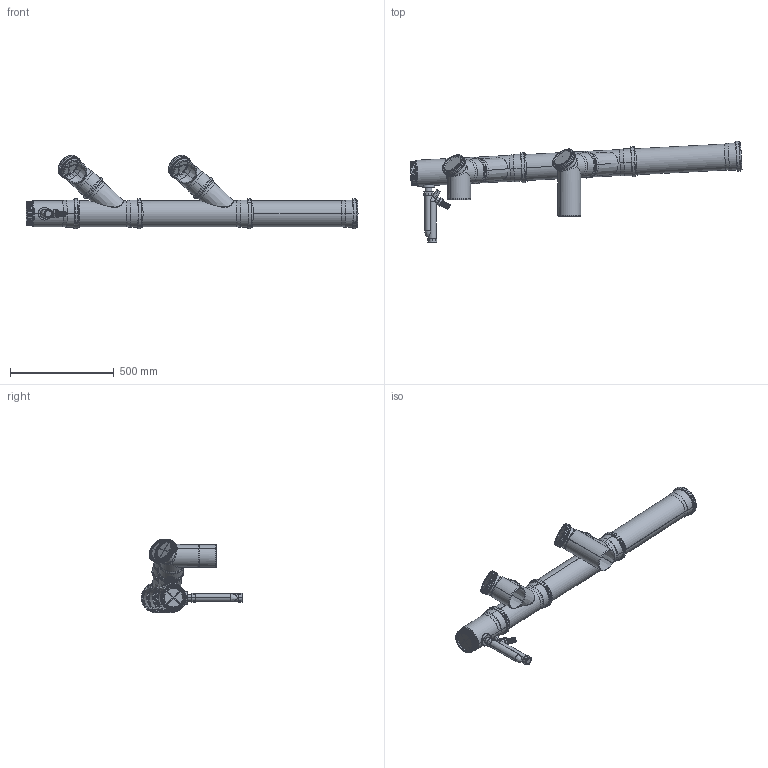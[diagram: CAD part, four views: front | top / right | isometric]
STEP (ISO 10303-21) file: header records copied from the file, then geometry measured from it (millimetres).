
FILE_DESCRIPTION((''),'2;1');
FILE_NAME('20-5511113199_ASM','2022-02-18T10:50:42',('ctgas'),('Centrotherm'),'CREO PARAMETRIC BY PTC INC, 2020281','CREO PARAMETRIC BY PTC INC, 2020281','');
FILE_SCHEMA(('AP242_MANAGED_MODEL_BASED_3D_ENGINEERING_MIM_LF { 1 0 10303 442 1 1 4 }'));
Length unit declared in the file: millimetre
Products named in the file (27): 20-1100001811_1000_AF0; 20-1100004792_AF0; 20-1100008876_ASM; 34014010; 20-1100008877_ASM; 20-1100001811_0300_AF0; 20-1100004792_AF1; 20-1100001346_ASM; 20-1100001050_ASM; 20-1100001811_0500; 20-1100002283_0500_ASM; 20-1100000544; 20-0002073000; 20-0034033000; 20-0034013010; 20-1100002663_ASM; 20-1100000543; 20-1100002662_ASM; 20-1100001811_0250_AF0; 20-1100004787; 20-0002700021; 20-1100001455_ASM; 20-1100000348_ASM; 45600054; 45600015; 80600024_ASM; 20-5511113199_ASM
Assembly tree (34 placements, depth 4):
  20-5511113199_ASM
    20-1100008877_ASM
      20-1100008876_ASM
        20-1100001811_1000_AF0
        20-1100004792_AF0
      34014010
    20-1100001050_ASM
      20-1100001346_ASM
        20-1100001811_0300_AF0
        20-1100004792_AF1
      34014010
    20-1100002283_0500_ASM
      20-1100001811_0500
      34014010
    20-1100002663_ASM
      20-1100000544
      20-0002073000
      20-0034033000
      20-0034013010
    20-1100002662_ASM
      20-1100000543
      20-0002073000
      20-0034033000
      20-0034013010
    20-1100000348_ASM
      20-1100001455_ASM
        20-1100001811_0250_AF0
        20-1100004787
        20-0002700021
      34014010
      20-0002073000
      20-0034033000
    80600024_ASM
      45600054
      45600015
Bounding box: 1597.06 x 487.69 x 354.09 mm (x, y, z)
Volume: 3351091 mm3; surface area: 2425203 mm2
Topology: 24 solids, 24 shells, 3061 faces, 7644 edges, 4727 vertices
Faces by surface type: plane 1653, cylinder 662, cone 398, torus 215, bspline 109, extrusion 14, sphere 10
Entity records: 103625 total; most frequent: CARTESIAN_POINT 30140, ORIENTED_EDGE 11648, DIRECTION 10900, PRESENTATION_STYLE_ASSIGNMENT 5874, STYLED_ITEM 5874, CURVE_STYLE 5824, EDGE_CURVE 5824, AXIS2_PLACEMENT_3D 4129
